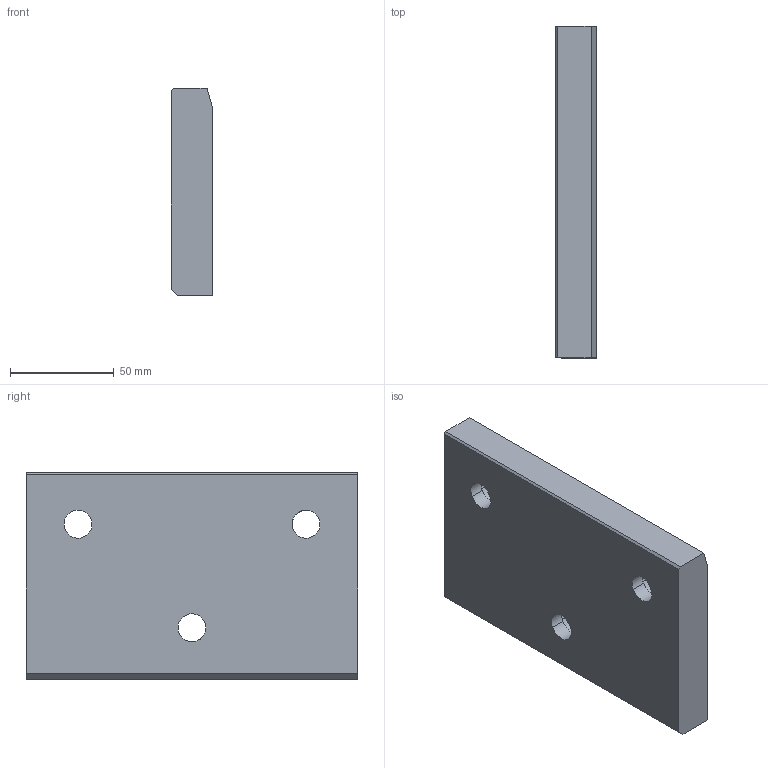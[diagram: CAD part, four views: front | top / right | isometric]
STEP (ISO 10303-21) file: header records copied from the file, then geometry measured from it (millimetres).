
FILE_DESCRIPTION (( 'STEP AP214' ), '1' );
FILE_NAME ('SW225-01-160x100.STEP', '2020-10-21T10:36:56', ( 'August' ), ( '' ), 'SwSTEP 2.0', 'SolidWorks 2018', '' );
FILE_SCHEMA (( 'AUTOMOTIVE_DESIGN' ));
Length unit declared in the file: millimetre
Products named in the file (1): SW225-01-160x100
Bounding box: 20 x 160 x 100 mm (x, y, z)
Volume: 301795.3 mm3; surface area: 44097 mm2
Topology: 1 solids, 1 shells, 25 faces, 60 edges, 40 vertices
Faces by surface type: cylinder 13, plane 12
Entity records: 858 total; most frequent: CARTESIAN_POINT 210, DIRECTION 130, ORIENTED_EDGE 120, EDGE_CURVE 60, AXIS2_PLACEMENT_3D 48, VERTEX_POINT 40, VECTOR 34, LINE 34
